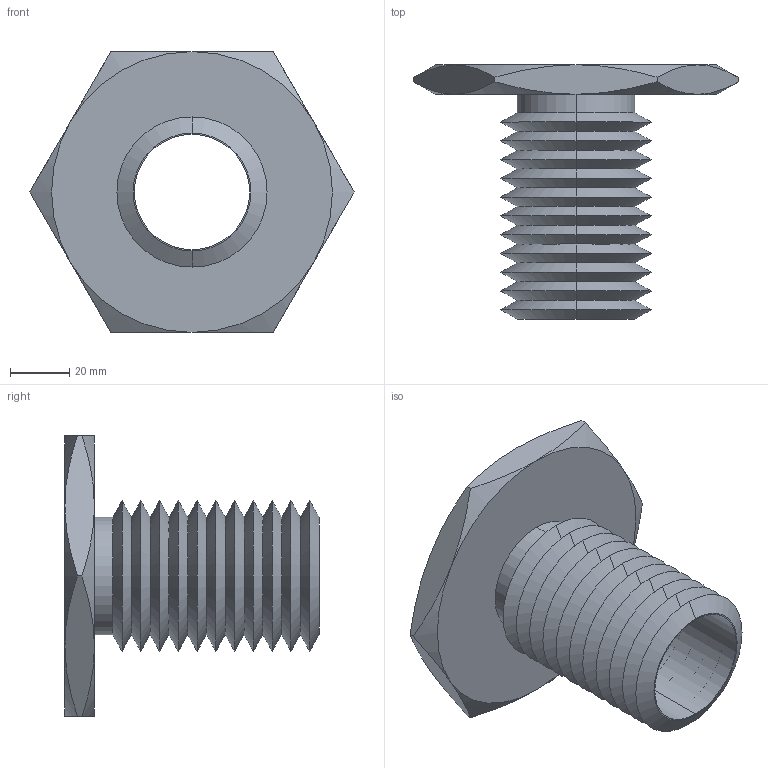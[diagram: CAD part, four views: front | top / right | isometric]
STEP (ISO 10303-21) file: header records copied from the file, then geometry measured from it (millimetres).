
FILE_DESCRIPTION (( 'STEP AP203' ), '1' );
FILE_NAME ('63302.W5200_M39x4.step', '2013-12-08T11:50:00', ( 'User' ), ( '' ), 'SwSTEP 2.0', 'SolidWorks 2009', '' );
FILE_SCHEMA (( 'CONFIG_CONTROL_DESIGN' ));
Length unit declared in the file: millimetre
Products named in the file (1): 63302.W5200_M39x4
Bounding box: 109.7 x 86 x 95 mm (x, y, z)
Volume: 93301.9 mm3; surface area: 46722.1 mm2
Topology: 1 solids, 1 shells, 71 faces, 146 edges, 78 vertices
Faces by surface type: cone 58, plane 9, cylinder 4
Entity records: 2071 total; most frequent: CARTESIAN_POINT 512, DIRECTION 332, ORIENTED_EDGE 292, EDGE_CURVE 146, AXIS2_PLACEMENT_3D 138, VERTEX_POINT 78, EDGE_LOOP 74, ADVANCED_FACE 71
